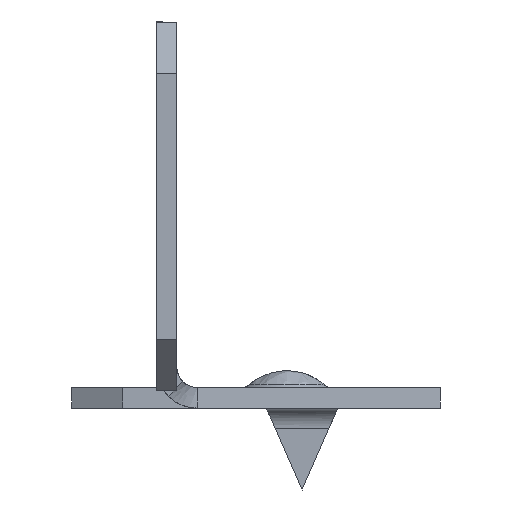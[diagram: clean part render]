
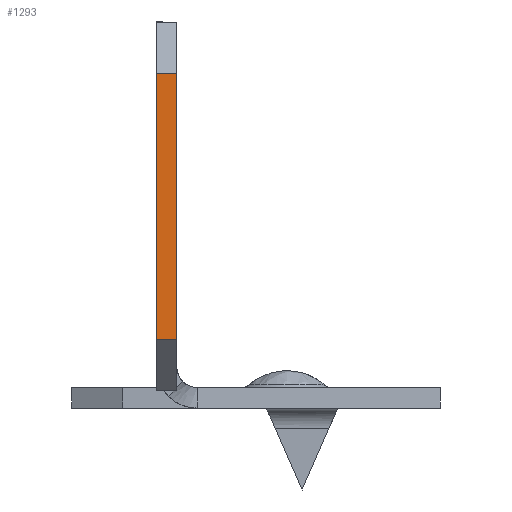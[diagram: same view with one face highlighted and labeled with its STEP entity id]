
A CAD part, front view. The second image highlights one B-rep face of the part: STEP entity #1293.
In plain terms, the highlighted planar face has unit normal (0, -1, 0).
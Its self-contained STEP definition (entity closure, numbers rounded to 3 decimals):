
#127 = DIRECTION ( 'NONE',  ( 0., 0., -1. ) ) ;
#212 = ORIENTED_EDGE ( 'NONE', *, *, #692, .T. ) ;
#225 = VERTEX_POINT ( 'NONE', #1675 ) ;
#357 = VECTOR ( 'NONE', #781, 1000. ) ;
#387 = CARTESIAN_POINT ( 'NONE',  ( -9.738, -125., 17.869 ) ) ;
#440 = VECTOR ( 'NONE', #1054, 1000. ) ;
#530 = CARTESIAN_POINT ( 'NONE',  ( -9.738, -125., -13.131 ) ) ;
#692 = EDGE_CURVE ( 'NONE', #225, #1299, #1419, .T. ) ;
#704 = VECTOR ( 'NONE', #1661, 1000. ) ;
#781 = DIRECTION ( 'NONE',  ( 0., 0., -1. ) ) ;
#876 = ORIENTED_EDGE ( 'NONE', *, *, #3502, .T. ) ;
#1054 = DIRECTION ( 'NONE',  ( 0., 0., -1. ) ) ;
#1147 = CARTESIAN_POINT ( 'NONE',  ( -7.738, -125., -8.131 ) ) ;
#1193 = ORIENTED_EDGE ( 'NONE', *, *, #2408, .F. ) ;
#1195 = DIRECTION ( 'NONE',  ( 0., -1., 0. ) ) ;
#1293 = ADVANCED_FACE ( 'NONE', ( #2618 ), #2036, .T. ) ;
#1299 = VERTEX_POINT ( 'NONE', #387 ) ;
#1300 = VERTEX_POINT ( 'NONE', #3396 ) ;
#1419 = LINE ( 'NONE', #2752, #704 ) ;
#1615 = LINE ( 'NONE', #3321, #440 ) ;
#1622 = LINE ( 'NONE', #530, #357 ) ;
#1661 = DIRECTION ( 'NONE',  ( -1., 0., 0. ) ) ;
#1675 = CARTESIAN_POINT ( 'NONE',  ( -7.738, -125., 17.869 ) ) ;
#1802 = AXIS2_PLACEMENT_3D ( 'NONE', #2560, #1195, #127 ) ;
#2036 = PLANE ( 'NONE',  #1802 ) ;
#2126 = EDGE_LOOP ( 'NONE', ( #212, #3408, #876, #1193 ) ) ;
#2128 = DIRECTION ( 'NONE',  ( 1., 0., 0. ) ) ;
#2179 = VECTOR ( 'NONE', #2128, 1000. ) ;
#2408 = EDGE_CURVE ( 'NONE', #225, #3289, #1615, .T. ) ;
#2421 = CARTESIAN_POINT ( 'NONE',  ( -9.738, -125., -8.131 ) ) ;
#2560 = CARTESIAN_POINT ( 'NONE',  ( -9.738, -125., -13.131 ) ) ;
#2618 = FACE_OUTER_BOUND ( 'NONE', #2126, .T. ) ;
#2657 = LINE ( 'NONE', #2421, #2179 ) ;
#2752 = CARTESIAN_POINT ( 'NONE',  ( -9.738, -125., 17.869 ) ) ;
#3237 = EDGE_CURVE ( 'NONE', #1299, #1300, #1622, .T. ) ;
#3289 = VERTEX_POINT ( 'NONE', #1147 ) ;
#3321 = CARTESIAN_POINT ( 'NONE',  ( -7.738, -125., -18.882 ) ) ;
#3396 = CARTESIAN_POINT ( 'NONE',  ( -9.738, -125., -8.131 ) ) ;
#3408 = ORIENTED_EDGE ( 'NONE', *, *, #3237, .T. ) ;
#3502 = EDGE_CURVE ( 'NONE', #1300, #3289, #2657, .T. ) ;
